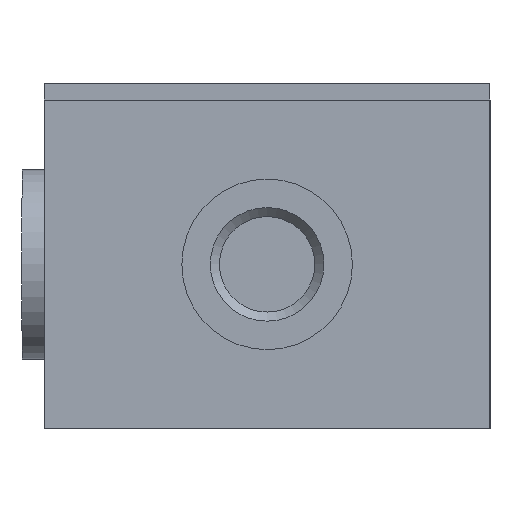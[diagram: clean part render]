
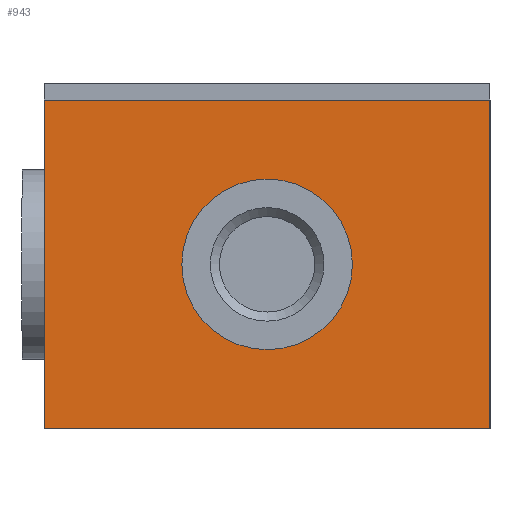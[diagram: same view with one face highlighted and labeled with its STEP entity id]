
A CAD part, left-side view. The second image highlights one B-rep face of the part: STEP entity #943.
In plain terms, the highlighted planar face has unit normal (-1, 0, 0).
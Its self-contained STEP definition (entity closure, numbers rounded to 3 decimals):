
#642=CARTESIAN_POINT('',(-55.0,0.,-8.595));
#643=VERTEX_POINT('',#642);
#644=CARTESIAN_POINT('',(-55.0,0.,-16.25));
#645=DIRECTION('',(1.0,0.0,0.0));
#646=DIRECTION('',(0.0,0.0,-1.0));
#647=AXIS2_PLACEMENT_3D('',#644,#645,#646);
#648=CIRCLE('',#647,7.655);
#649=EDGE_CURVE('',#643,#643,#648,.T.);
#810=CARTESIAN_POINT('',(-55.0,20.,-1.5));
#811=VERTEX_POINT('',#810);
#812=CARTESIAN_POINT('',(-55.0,-20.,-1.5));
#813=VERTEX_POINT('',#812);
#814=CARTESIAN_POINT('',(-55.0,20.,-1.5));
#815=DIRECTION('',(0.0,-1.0,0.0));
#816=VECTOR('',#815,40.);
#817=LINE('',#814,#816);
#818=EDGE_CURVE('',#811,#813,#817,.T.);
#850=CARTESIAN_POINT('',(-55.0,-20.,-31.));
#851=VERTEX_POINT('',#850);
#852=CARTESIAN_POINT('',(-55.0,-20.,-1.5));
#853=DIRECTION('',(0.0,0.0,-1.0));
#854=VECTOR('',#853,29.5);
#855=LINE('',#852,#854);
#856=EDGE_CURVE('',#813,#851,#855,.T.);
#881=CARTESIAN_POINT('',(-55.0,20.,-31.));
#882=VERTEX_POINT('',#881);
#883=CARTESIAN_POINT('',(-55.0,-20.,-31.));
#884=DIRECTION('',(0.0,1.0,0.0));
#885=VECTOR('',#884,40.);
#886=LINE('',#883,#885);
#887=EDGE_CURVE('',#851,#882,#886,.T.);
#912=CARTESIAN_POINT('',(-55.0,20.,-31.));
#913=DIRECTION('',(0.0,0.0,1.0));
#914=VECTOR('',#913,29.5);
#915=LINE('',#912,#914);
#916=EDGE_CURVE('',#882,#811,#915,.T.);
#929=CARTESIAN_POINT('',(-55.0,0.,-16.25));
#930=DIRECTION('',(1.0,0.0,0.0));
#931=DIRECTION('',(0.0,0.0,-1.0));
#932=AXIS2_PLACEMENT_3D('',#929,#930,#931);
#933=PLANE('',#932);
#934=ORIENTED_EDGE('',*,*,#818,.F.);
#935=ORIENTED_EDGE('',*,*,#916,.F.);
#936=ORIENTED_EDGE('',*,*,#887,.F.);
#937=ORIENTED_EDGE('',*,*,#856,.F.);
#938=EDGE_LOOP('',(#934,#935,#936,#937));
#939=FACE_OUTER_BOUND('',#938,.T.);
#940=ORIENTED_EDGE('',*,*,#649,.T.);
#941=EDGE_LOOP('',(#940));
#942=FACE_BOUND('',#941,.T.);
#943=ADVANCED_FACE('',(#939,#942),#933,.F.);
